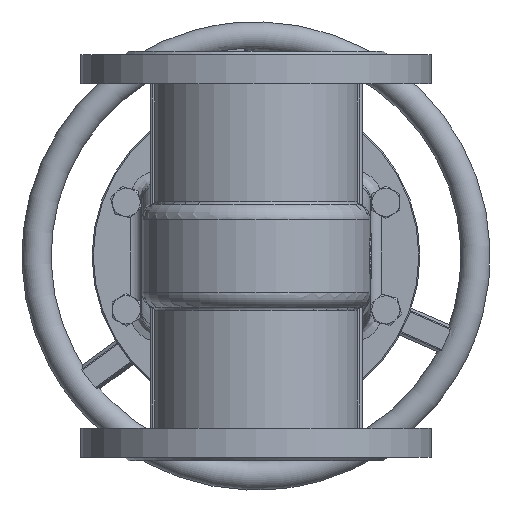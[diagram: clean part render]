
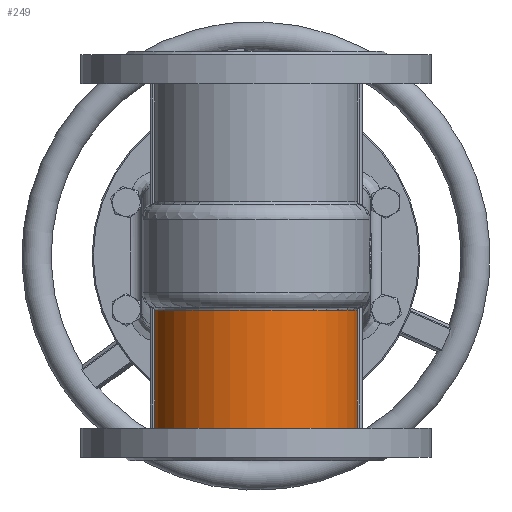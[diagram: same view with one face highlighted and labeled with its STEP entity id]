
A CAD part, front view. The second image highlights one B-rep face of the part: STEP entity #249.
In plain terms, the highlighted cylindrical face has radius 87.5 mm (diameter 175 mm), a partial arc.
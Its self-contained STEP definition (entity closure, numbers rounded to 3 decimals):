
#249=ADVANCED_FACE('',(#12210),#12212,.T.);
#12210=FACE_BOUND('',#12211,.T.);
#12211=EDGE_LOOP('',(#24896,#24897,#24898,#24899));
#12212=CYLINDRICAL_SURFACE('',#12213,87.5);
#12213=AXIS2_PLACEMENT_3D('',#12214,#12215,#12216);
#12214=CARTESIAN_POINT('',(0.,0.,-118.));
#12215=DIRECTION('',(0.,0.,1.));
#12216=DIRECTION('',(1.,0.,0.));
#24896=ORIENTED_EDGE('',*,*,#31559,.F.);
#24897=ORIENTED_EDGE('',*,*,#31558,.T.);
#24898=ORIENTED_EDGE('',*,*,#31560,.F.);
#24899=ORIENTED_EDGE('',*,*,#31561,.F.);
#31558=EDGE_CURVE('',#34764,#34770,#34772,.F.);
#31559=EDGE_CURVE('',#34764,#34773,#34774,.F.);
#31560=EDGE_CURVE('',#34775,#34770,#34776,.T.);
#31561=EDGE_CURVE('',#34773,#34775,#34777,.T.);
#34764=VERTEX_POINT('',#40316);
#34770=VERTEX_POINT('',#40335);
#34772=LINE('',#40406,#40407);
#34773=VERTEX_POINT('',#40409);
#34774=CIRCLE('',#40410,87.5);
#34775=VERTEX_POINT('',#40414);
#34776=CIRCLE('',#40415,87.5);
#34777=LINE('',#40419,#40420);
#40316=CARTESIAN_POINT('',(86.603,-12.5,-147.));
#40335=CARTESIAN_POINT('',(86.603,-12.5,-46.492));
#40406=CARTESIAN_POINT('',(86.603,-12.5,-46.492));
#40407=VECTOR('',#40408,1.);
#40408=DIRECTION('',(0.,0.,-1.));
#40409=CARTESIAN_POINT('',(-86.603,-12.5,-147.));
#40410=AXIS2_PLACEMENT_3D('',#40411,#40412,#40413);
#40411=CARTESIAN_POINT('',(0.,0.,-147.));
#40412=DIRECTION('',(0.,0.,1.));
#40413=DIRECTION('',(-0.99,-0.143,0.));
#40414=CARTESIAN_POINT('',(-86.603,-12.5,-46.492));
#40415=AXIS2_PLACEMENT_3D('',#40416,#40417,#40418);
#40416=CARTESIAN_POINT('',(0.,0.,-46.492));
#40417=DIRECTION('',(0.,0.,1.));
#40418=DIRECTION('',(-0.99,-0.143,0.));
#40419=CARTESIAN_POINT('',(-86.603,-12.5,-147.));
#40420=VECTOR('',#40421,1.);
#40421=DIRECTION('',(0.,0.,1.));
